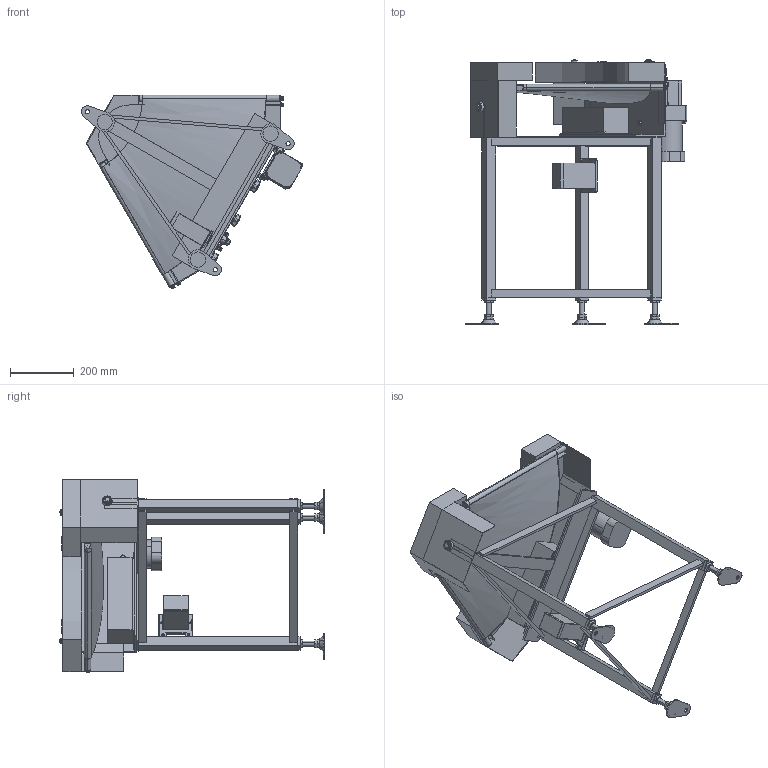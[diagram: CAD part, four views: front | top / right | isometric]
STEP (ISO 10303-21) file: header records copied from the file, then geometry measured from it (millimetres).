
FILE_DESCRIPTION (( 'STEP AP214' ), '1' );
FILE_NAME ('GBC60-HS300-IV-R.STEP', '2024-01-17T07:50:06', ( '' ), ( '' ), 'SwSTEP 2.0', 'SolidWorks 2017', '' );
FILE_SCHEMA (( 'AUTOMOTIVE_DESIGN' ));
Length unit declared in the file: millimetre
Products named in the file (1): GBC60-HS300-IV-R
Bounding box: 692.69 x 827.92 x 606.24 mm (x, y, z)
Volume: 14726510.7 mm3; surface area: 2879195 mm2
Topology: 78 solids, 78 shells, 1542 faces, 3528 edges, 2211 vertices
Faces by surface type: plane 825, cylinder 414, cone 159, bspline 82, torus 48, sphere 14
Entity records: 52588 total; most frequent: CARTESIAN_POINT 17054, DIRECTION 7212, ORIENTED_EDGE 6984, EDGE_CURVE 3492, AXIS2_PLACEMENT_3D 2621, VERTEX_POINT 2211, LINE 1970, VECTOR 1970
